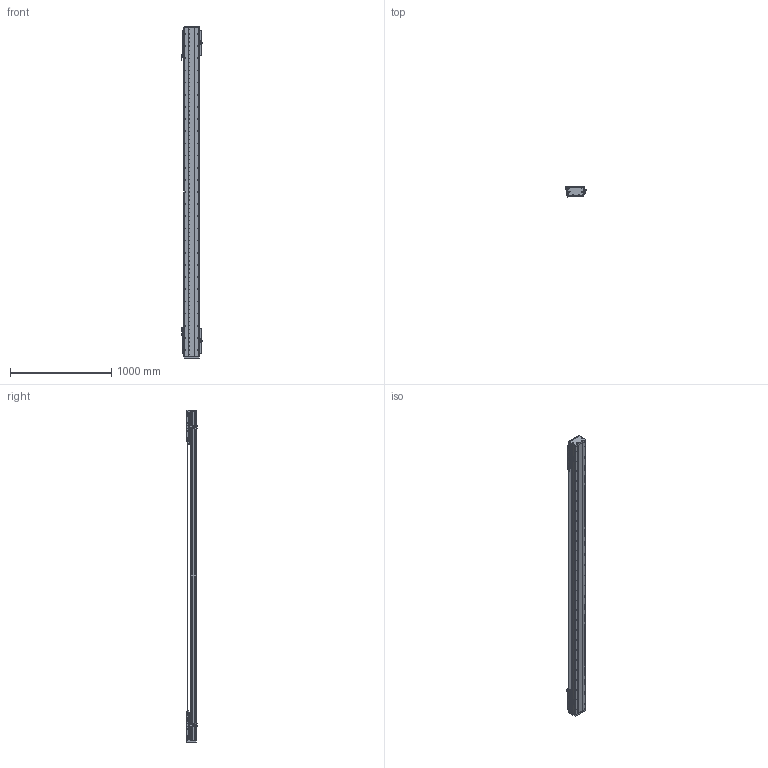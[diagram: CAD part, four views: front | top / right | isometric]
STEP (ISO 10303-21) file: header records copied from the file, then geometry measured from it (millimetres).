
FILE_DESCRIPTION (( 'STEP AP203' ), '1' );
FILE_NAME ('DA-C145-2-C3-T2660-C010-0.2 眻盄萇儂.STEP', '2025-08-14T00:37:18', ( '' ), ( '' ), 'SwSTEP 2.0', 'SolidWorks 2019', '' );
FILE_SCHEMA (( 'CONFIG_CONTROL_DESIGN' ));
Length unit declared in the file: millimetre
Products named in the file (38): 复件 DA146 钢带拉块^复件 CU145 钢带组件_DA-C145-2-C3-T-C010-0.2; 葩璃 CU145 詩湍郪璃^DA-C145-2-C3-T-C010-0.2; 葩璃 鞠褒情蹟譫 M3^DA-C145-2-C3-T-C010-0.2; 葩璃 DMA-010-0.2 黍杅芛^DA-C145-2-C3-T-C010-0.2; 复件 DA95-DB-00  挡板^CU145-W 滚珠滑台; 葩璃 XD-U-02L 棠掑喜^DA-C145-2-C3-T-C010-0.2; DA-C145-2-C3-T2660-C010-0.2 眻盄萇儂; 复件 纯铜油杯 6x6mm^CU145-W 滚珠滑台; DKW168-HXJ-ZJ-00 笢潔滅袉砎蝶; 复件 DA146 钢带垫块^复件 CU145 钢带组件_DA-C145-2-C3-T-C010-0.2; DKW-GYP-ZJ-00 笢潔嫖萇覜茼え; 复件 DA145-C3-YB-B-00 压板B^CU145-W 滚珠滑台; 复件 内六角平端紧定螺钉 GB.T77-2000 M5×10^CU145-W 滚珠滑台; 葩璃 CKMA01-W060-TRL^DA-C145-2-C3-T-C010-0.2; TAY01-M8; DKW-KGZ-ZJ-00 中间光电开关支架; CU145-W 幗紩賑怢-1; 复件 DA145 钢带^复件 CU145 钢带组件_DA-C145-2-C3-T-C010-0.2; 葩璃 CKM03-W060-C1C2-TP-0.2^DA-C145-2-C3-T-C010-0.2; 复件 半圆头内六角螺钉 M3×6^CU145-W 滚珠滑台; 葩璃 PM-T45^DA-C145-2-C3-T-C010-0.2; 复件 DA95-MFP-01 密封片^CU145-W 滚珠滑台; CU145-W 幗紩賑怢; 葩璃 DA145-C3-DP-B-00 菜えB^CU145-W 幗紩賑怢; 葩璃 DA95-HXJ-00 遣喳砎蝶^DA-C145-2-C3-T-C010-0.2; IU-CU145-L-00 菁釱(L3240); 复件 DA145-GYP-00 光电感应片^DA-C145-2-C3-T-C010-0.2; CU145-W-00 珨极趙賑雄怢啣-1; 葩璃 DA95-GT-T-00^IU-CU145-L 菁釱絳寢; 66245-CU145-HT-W-00 賑雄怢啣(3D芞祧)(00); IU-CU145-L 菁釱絳寢; 葩璃 PM-Y65^DA-C145-2-C3-T-C010-0.2; 复件 DA145-C3-YB-A-00 压板A^CU145-W 滚珠滑台; CU145-W-00 珨极趙賑雄怢啣; 复件 DA145-DG 钢带端盖^复件 CU145 钢带组件_DA-C145-2-C3-T-C010-0.2; 葩璃 DA145-C3-DP-A-00 菜えA^CU145-W 幗紩賑怢; 复件 DA95-HK-GT-00 滑块钢轨^CU145-W-00 一体化滑动台板; 复件 DA145-C3-DK-00 挡块^CU145-W 滚珠滑台
Assembly tree (180 placements, depth 4):
  DA-C145-2-C3-T2660-C010-0.2 眻盄萇儂
    IU-CU145-L 菁釱絳寢
      IU-CU145-L-00 菁釱(L3240)
      葩璃 DA95-GT-T-00^IU-CU145-L 菁釱絳寢  x4
    葩璃 CU145 詩湍郪璃^DA-C145-2-C3-T-C010-0.2
      复件 DA145-DG 钢带端盖^复件 CU145 钢带组件_DA-C145-2-C3-T-C010-0.2  x2
      复件 DA146 钢带拉块^复件 CU145 钢带组件_DA-C145-2-C3-T-C010-0.2  x2
      复件 DA146 钢带垫块^复件 CU145 钢带组件_DA-C145-2-C3-T-C010-0.2  x2
      复件 DA145 钢带^复件 CU145 钢带组件_DA-C145-2-C3-T-C010-0.2
    CU145-W 幗紩賑怢
      CU145-W-00 珨极趙賑雄怢啣
        66245-CU145-HT-W-00 賑雄怢啣(3D芞祧)(00)
        复件 DA95-HK-GT-00 滑块钢轨^CU145-W-00 一体化滑动台板  x8
      复件 DA95-MFP-01 密封片^CU145-W 滚珠滑台  x8
      复件 DA95-DB-00  挡板^CU145-W 滚珠滑台  x8
      复件 内六角平端紧定螺钉 GB.T77-2000 M5×10^CU145-W 滚珠滑台  x4
      复件 纯铜油杯 6x6mm^CU145-W 滚珠滑台  x4
      复件 半圆头内六角螺钉 M3×6^CU145-W 滚珠滑台  x16
      复件 DA145-C3-DK-00 挡块^CU145-W 滚珠滑台  x4
      葩璃 DA145-C3-DP-B-00 菜えB^CU145-W 幗紩賑怢  x2
      复件 DA145-C3-YB-B-00 压板B^CU145-W 滚珠滑台  x2
      葩璃 DA145-C3-DP-A-00 菜えA^CU145-W 幗紩賑怢  x3
      复件 DA145-C3-YB-A-00 压板A^CU145-W 滚珠滑台  x3
      TAY01-M8  x4
    CU145-W 幗紩賑怢-1
      CU145-W-00 珨极趙賑雄怢啣-1
        66245-CU145-HT-W-00 賑雄怢啣(3D芞祧)(00)
        复件 DA95-HK-GT-00 滑块钢轨^CU145-W-00 一体化滑动台板  x8
      复件 DA95-MFP-01 密封片^CU145-W 滚珠滑台  x8
      复件 DA95-DB-00  挡板^CU145-W 滚珠滑台  x8
      复件 内六角平端紧定螺钉 GB.T77-2000 M5×10^CU145-W 滚珠滑台  x4
      复件 纯铜油杯 6x6mm^CU145-W 滚珠滑台  x4
      复件 半圆头内六角螺钉 M3×6^CU145-W 滚珠滑台  x16
      复件 DA145-C3-DK-00 挡块^CU145-W 滚珠滑台  x4
      葩璃 DA145-C3-DP-B-00 菜えB^CU145-W 幗紩賑怢  x2
      复件 DA145-C3-YB-B-00 压板B^CU145-W 滚珠滑台  x2
      葩璃 DA145-C3-DP-A-00 菜えA^CU145-W 幗紩賑怢  x3
      复件 DA145-C3-YB-A-00 压板A^CU145-W 滚珠滑台  x3
      TAY01-M8  x4
    葩璃 CKMA01-W060-TRL^DA-C145-2-C3-T-C010-0.2
    葩璃 PM-T45^DA-C145-2-C3-T-C010-0.2  x4
    葩璃 XD-U-02L 棠掑喜^DA-C145-2-C3-T-C010-0.2
    葩璃 DA95-HXJ-00 遣喳砎蝶^DA-C145-2-C3-T-C010-0.2  x4
    葩璃 CKM03-W060-C1C2-TP-0.2^DA-C145-2-C3-T-C010-0.2  x2
    葩璃 DMA-010-0.2 黍杅芛^DA-C145-2-C3-T-C010-0.2  x2
    复件 DA145-GYP-00 光电感应片^DA-C145-2-C3-T-C010-0.2  x2
    DKW-GYP-ZJ-00 笢潔嫖萇覜茼え
    DKW-KGZ-ZJ-00 中间光电开关支架
    葩璃 PM-Y65^DA-C145-2-C3-T-C010-0.2
    葩璃 鞠褒情蹟譫 M3^DA-C145-2-C3-T-C010-0.2  x8
    DKW168-HXJ-ZJ-00 笢潔滅袉砎蝶
Bounding box: 213.7 x 108.45 x 3276 mm (x, y, z)
Volume: 16798657.7 mm3; surface area: 5432879.6 mm2
Topology: 175 solids, 239 shells, 7824 faces, 21561 edges, 13393 vertices
Faces by surface type: cylinder 3523, plane 2961, cone 1184, torus 140, sphere 8, bspline 8
Entity records: 156040 total; most frequent: CARTESIAN_POINT 46844, ORIENTED_EDGE 21808, DIRECTION 20441, EDGE_CURVE 10904, AXIS2_PLACEMENT_3D 7549, VERTEX_POINT 7092, VECTOR 5343, LINE 5343
